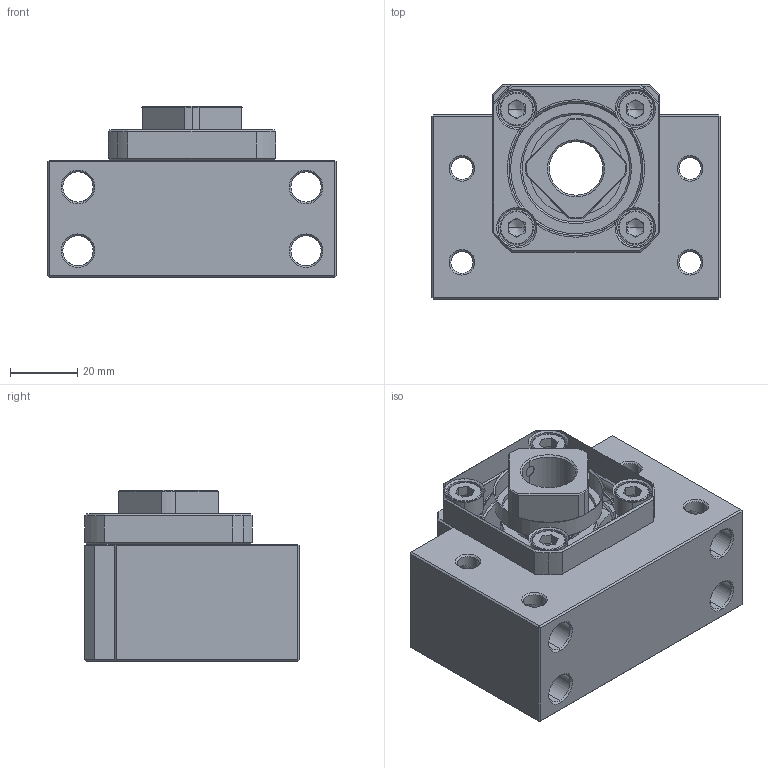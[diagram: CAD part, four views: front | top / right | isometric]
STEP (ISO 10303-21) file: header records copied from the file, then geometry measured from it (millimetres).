
FILE_DESCRIPTION (( 'STEP AP203' ), '1' );
FILE_NAME ('BSGK-17_203.STEP', '2013-02-26T01:19:47', ( '' ), ( '' ), 'SwSTEP 2.0', 'SolidWorks 2012', '' );
FILE_SCHEMA (( 'CONFIG_CONTROL_DESIGN' ));
Length unit declared in the file: millimetre
Products named in the file (1): BSGK-17_203
Bounding box: 86 x 64 x 51 mm (x, y, z)
Volume: 171301.8 mm3; surface area: 39513.6 mm2
Topology: 1 solids, 15 shells, 475 faces, 1106 edges, 646 vertices
Faces by surface type: plane 175, cylinder 144, cone 116, torus 40
Entity records: 14487 total; most frequent: CARTESIAN_POINT 3525, DIRECTION 2390, ORIENTED_EDGE 2180, EDGE_CURVE 1090, AXIS2_PLACEMENT_3D 935, VERTEX_POINT 646, EDGE_LOOP 530, VECTOR 520
